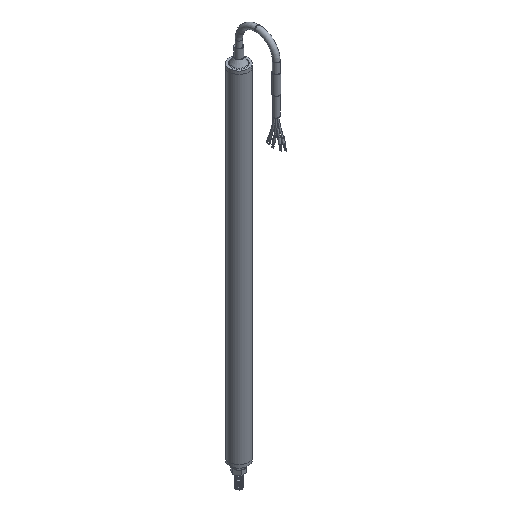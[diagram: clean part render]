
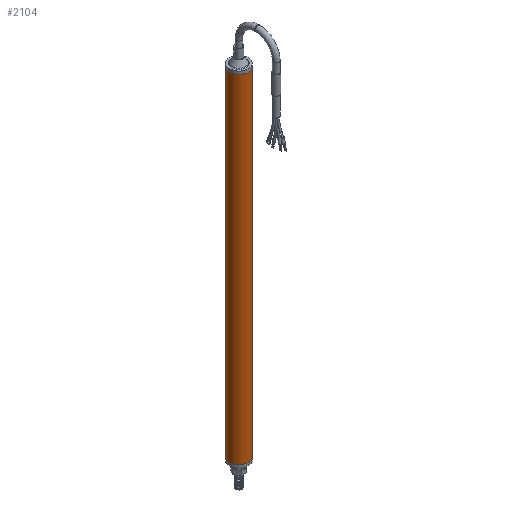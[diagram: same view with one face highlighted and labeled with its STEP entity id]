
A CAD part, isometric view. The second image highlights one B-rep face of the part: STEP entity #2104.
In plain terms, the highlighted cylindrical face has radius 6.35 mm (diameter 12.7 mm), a full revolution.
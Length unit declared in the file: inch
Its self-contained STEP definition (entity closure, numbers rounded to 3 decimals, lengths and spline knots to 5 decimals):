
#98=LINE('',#3305,#245);
#245=VECTOR('',#2707,0.25);
#391=CYLINDRICAL_SURFACE('',#2422,0.25);
#462=FACE_OUTER_BOUND('',#600,.T.);
#600=EDGE_LOOP('',(#1364,#1365,#1366,#1367,#1368));
#744=CIRCLE('',#2410,0.25);
#745=CIRCLE('',#2411,0.25);
#750=CIRCLE('',#2420,0.25);
#846=VERTEX_POINT('',#3282);
#847=VERTEX_POINT('',#3284);
#852=VERTEX_POINT('',#3300);
#1043=EDGE_CURVE('',#847,#846,#744,.T.);
#1044=EDGE_CURVE('',#846,#847,#745,.T.);
#1051=EDGE_CURVE('',#852,#852,#750,.T.);
#1052=EDGE_CURVE('',#852,#847,#98,.T.);
#1364=ORIENTED_EDGE('',*,*,#1051,.F.);
#1365=ORIENTED_EDGE('',*,*,#1052,.T.);
#1366=ORIENTED_EDGE('',*,*,#1043,.T.);
#1367=ORIENTED_EDGE('',*,*,#1044,.T.);
#1368=ORIENTED_EDGE('',*,*,#1052,.F.);
#2104=ADVANCED_FACE('',(#462),#391,.T.);
#2410=AXIS2_PLACEMENT_3D('',#3285,#2679,#2680);
#2411=AXIS2_PLACEMENT_3D('',#3286,#2681,#2682);
#2420=AXIS2_PLACEMENT_3D('',#3302,#2701,#2702);
#2422=AXIS2_PLACEMENT_3D('',#3304,#2705,#2706);
#2679=DIRECTION('center_axis',(0.,0.,-1.));
#2680=DIRECTION('ref_axis',(-1.,0.,0.));
#2681=DIRECTION('center_axis',(0.,0.,-1.));
#2682=DIRECTION('ref_axis',(-1.,0.,0.));
#2701=DIRECTION('center_axis',(0.,0.,-1.));
#2702=DIRECTION('ref_axis',(-1.,0.,0.));
#2705=DIRECTION('center_axis',(0.,0.,-1.));
#2706=DIRECTION('ref_axis',(-1.,0.,0.));
#2707=DIRECTION('',(0.,0.,1.));
#3282=CARTESIAN_POINT('',(0.,0.25,0.));
#3284=CARTESIAN_POINT('',(0.25,0.,0.));
#3285=CARTESIAN_POINT('Origin',(0.,0.,0.));
#3286=CARTESIAN_POINT('Origin',(0.,0.,0.));
#3300=CARTESIAN_POINT('',(0.25,0.,-8.89764));
#3302=CARTESIAN_POINT('Origin',(0.,0.,-8.89764));
#3304=CARTESIAN_POINT('Origin',(0.,0.,0.));
#3305=CARTESIAN_POINT('',(0.25,0.,0.));
